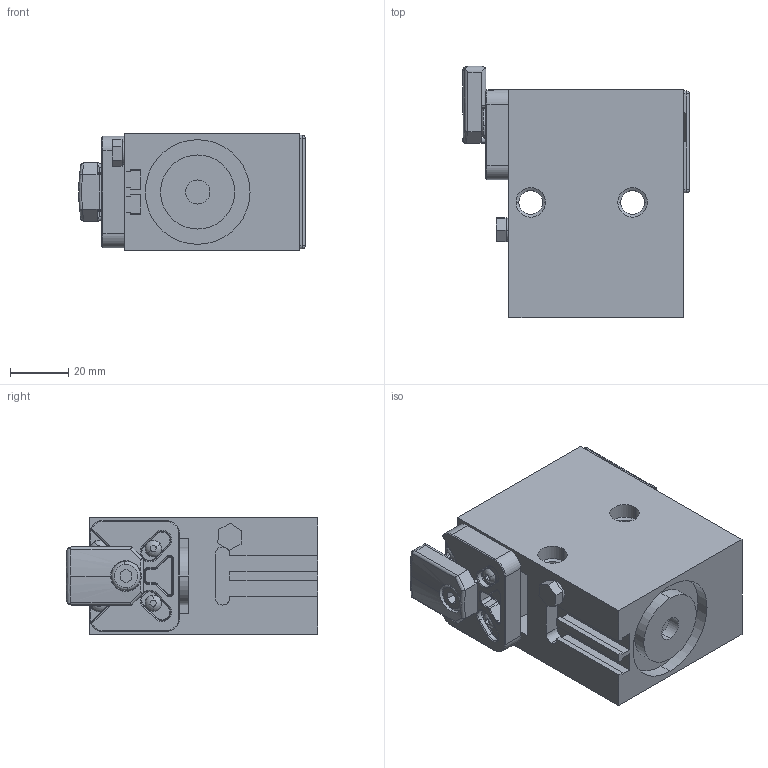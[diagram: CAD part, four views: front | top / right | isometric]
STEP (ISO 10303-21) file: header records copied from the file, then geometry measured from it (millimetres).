
FILE_DESCRIPTION (( 'STEP AP203' ), '1' );
FILE_NAME ('DBS-90-08-EW-E.STEP', '2022-07-26T06:17:08', ( '' ), ( '' ), 'SwSTEP 2.0', 'SolidWorks 2019', '' );
FILE_SCHEMA (( 'CONFIG_CONTROL_DESIGN' ));
Length unit declared in the file: millimetre
Products named in the file (1): DBS-90-08-EW-E
Bounding box: 77.9 x 86.42 x 40 mm (x, y, z)
Volume: 180800.5 mm3; surface area: 45893.3 mm2
Topology: 17 solids, 17 shells, 501 faces, 1205 edges, 735 vertices
Faces by surface type: plane 203, cylinder 178, torus 52, cone 45, sphere 17, bspline 6
Entity records: 14718 total; most frequent: CARTESIAN_POINT 2828, DIRECTION 2619, ORIENTED_EDGE 2356, EDGE_CURVE 1178, AXIS2_PLACEMENT_3D 992, VERTEX_POINT 735, LINE 635, VECTOR 635
